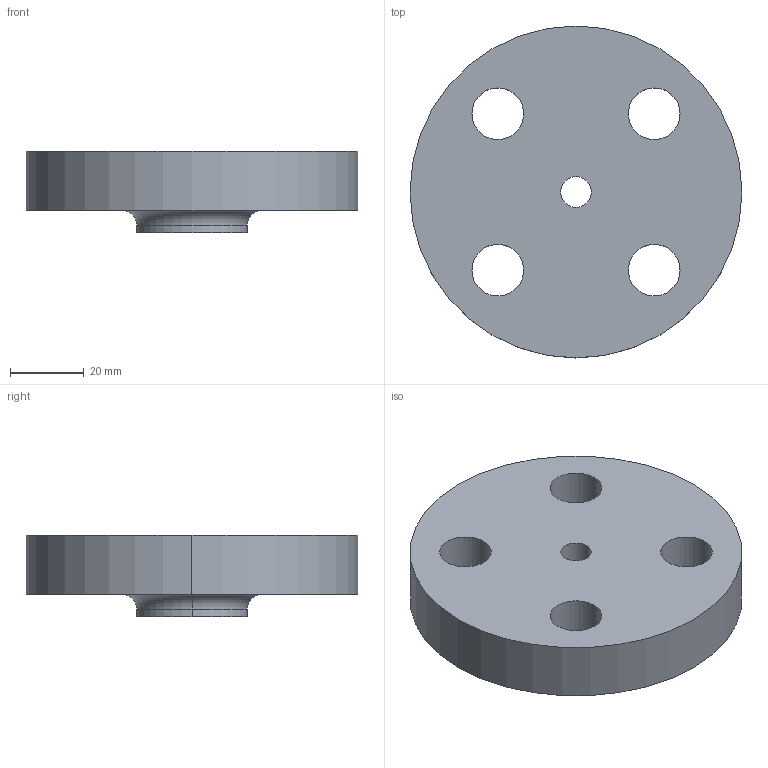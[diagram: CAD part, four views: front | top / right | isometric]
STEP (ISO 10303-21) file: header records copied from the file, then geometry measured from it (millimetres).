
FILE_DESCRIPTION (( 'STEP AP214' ), '1' );
FILE_NAME ('PN40 DN10 Type 13 - Type A Face.STEP', '2018-12-29T03:59:14', ( '' ), ( '' ), 'SwSTEP 2.0', 'SolidWorks 2019', '' );
FILE_SCHEMA (( 'AUTOMOTIVE_DESIGN' ));
Length unit declared in the file: millimetre
Products named in the file (1): PN40 DN10 Type 13 - Type A Face
Bounding box: 90 x 90 x 22 mm (x, y, z)
Volume: 95307.4 mm3; surface area: 19710.2 mm2
Topology: 1 solids, 1 shells, 19 faces, 46 edges, 30 vertices
Faces by surface type: cylinder 14, plane 3, torus 2
Entity records: 630 total; most frequent: DIRECTION 118, CARTESIAN_POINT 96, ORIENTED_EDGE 92, AXIS2_PLACEMENT_3D 52, EDGE_CURVE 46, CIRCLE 32, VERTEX_POINT 30, EDGE_LOOP 30
